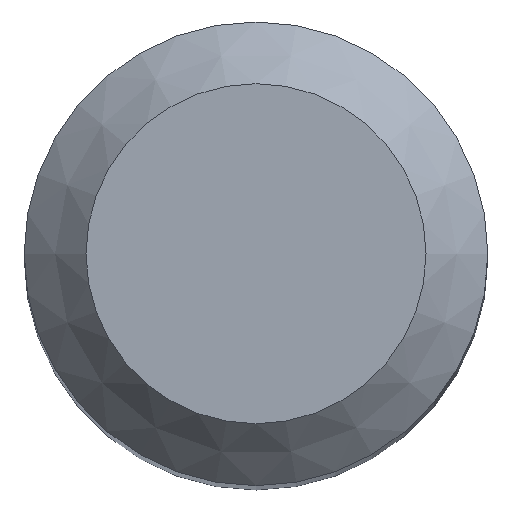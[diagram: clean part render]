
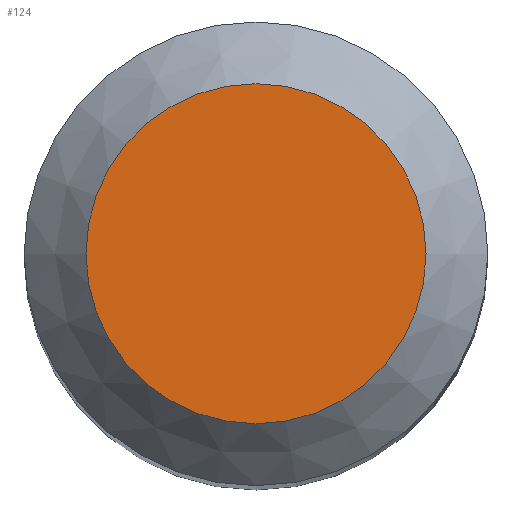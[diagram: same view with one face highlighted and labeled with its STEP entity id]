
A CAD part, top view. The second image highlights one B-rep face of the part: STEP entity #124.
In plain terms, the highlighted planar face has unit normal (0, 0, 1).
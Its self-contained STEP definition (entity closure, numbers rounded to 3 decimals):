
#108=CARTESIAN_POINT('',(2.2,0.0,55.0));
#109=DIRECTION('',(0.0,0.0,1.0));
#110=DIRECTION('',(1.0,0.0,0.0));
#111=AXIS2_PLACEMENT_3D('',#108,#109,#110);
#112=PLANE('',#111);
#113=CARTESIAN_POINT('',(-2.2,0.0,55.));
#114=VERTEX_POINT('',#113);
#115=CARTESIAN_POINT('',(0.0,0.0,55.));
#116=DIRECTION('',(0.0,0.0,-1.0));
#117=DIRECTION('',(-1.0,0.0,0.0));
#118=AXIS2_PLACEMENT_3D('',#115,#116,#117);
#119=CIRCLE('',#118,2.2);
#120=EDGE_CURVE('',#114,#114,#119,.T.);
#121=ORIENTED_EDGE('',*,*,#120,.F.);
#122=EDGE_LOOP('',(#121));
#123=FACE_OUTER_BOUND('',#122,.T.);
#124=ADVANCED_FACE('',(#123),#112,.T.);
